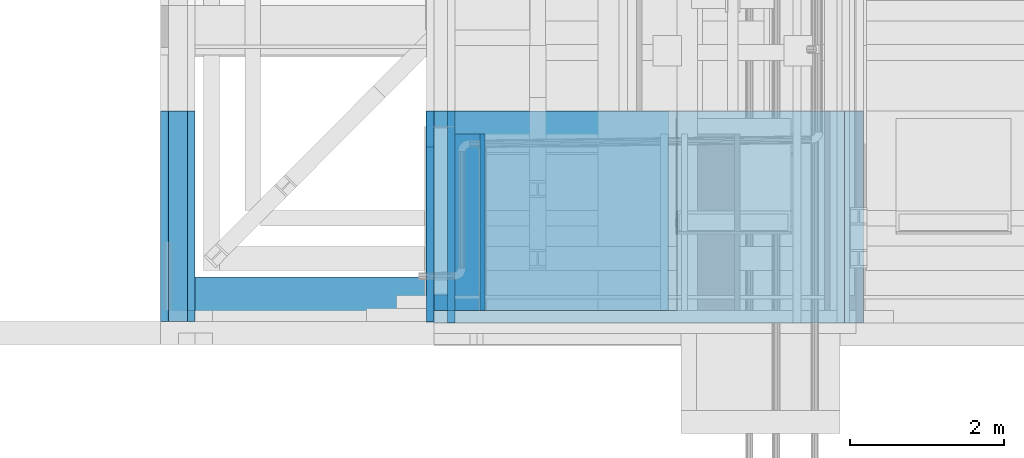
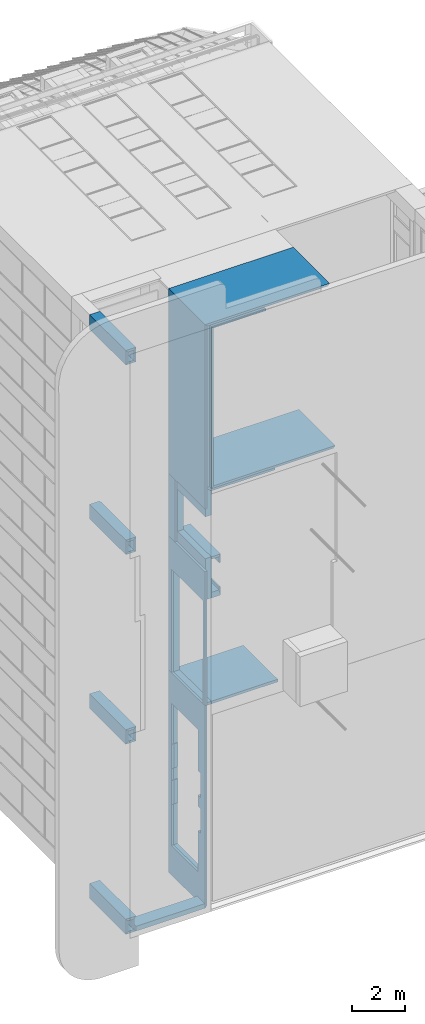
# One storey, part 8 of 583: 33 walls, 18 openings.
"""IFC2X3 building model written with IfcOpenShell, lengths in metres."""

from ifc_helpers import new_model, entity, si_unit, converted_unit, derived_unit, money_unit, direction, frame, frame_2d, origin_with_axes, place, context, subcontext, project, spatial, polyline, rectangle, outline, extrude, material, type_object, element, save


model = new_model("IFC2X3")

# Units and contexts
model_context = context("Model", 3, precision=1e-05, world=origin_with_axes(), true_north=direction((0.0, 1.0)))
body_context = subcontext(model_context, "Body", "Model", "MODEL_VIEW", scale=1.0)
ifc_project = project(units=[si_unit("LENGTHUNIT", "METRE"), si_unit("AREAUNIT", "SQUARE_METRE"), si_unit("VOLUMEUNIT", "CUBIC_METRE"), si_unit("ABSORBEDDOSEUNIT", "GRAY"), si_unit("AMOUNTOFSUBSTANCEUNIT", "MOLE"), si_unit("DOSEEQUIVALENTUNIT", "SIEVERT"), si_unit("ELECTRICCAPACITANCEUNIT", "FARAD"), si_unit("ELECTRICCHARGEUNIT", "COULOMB"), si_unit("ELECTRICCONDUCTANCEUNIT", "SIEMENS"), si_unit("ELECTRICCURRENTUNIT", "AMPERE"), si_unit("ELECTRICRESISTANCEUNIT", "OHM"), si_unit("ELECTRICVOLTAGEUNIT", "VOLT"), si_unit("ENERGYUNIT", "JOULE"), si_unit("FORCEUNIT", "NEWTON"), si_unit("FREQUENCYUNIT", "HERTZ"), si_unit("ILLUMINANCEUNIT", "LUX"), si_unit("INDUCTANCEUNIT", "HENRY"), si_unit("LUMINOUSFLUXUNIT", "LUMEN"), si_unit("LUMINOUSINTENSITYUNIT", "CANDELA"), si_unit("MAGNETICFLUXDENSITYUNIT", "TESLA"), si_unit("MAGNETICFLUXUNIT", "WEBER"), si_unit("MASSUNIT", "GRAM"), converted_unit("PLANEANGLEUNIT", "degree", entity("IfcReal", 0.0174532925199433), si_unit("PLANEANGLEUNIT", "RADIAN"), dimensions=[0, 0, 0, 0, 0, 0, 0]), si_unit("POWERUNIT", "WATT"), si_unit("PRESSUREUNIT", "PASCAL"), si_unit("RADIOACTIVITYUNIT", "BECQUEREL"), si_unit("SOLIDANGLEUNIT", "STERADIAN"), si_unit("THERMODYNAMICTEMPERATUREUNIT", "KELVIN"), si_unit("TIMEUNIT", "SECOND"), derived_unit("ACCELERATIONUNIT", [(si_unit("LENGTHUNIT", "METRE"), 1), (si_unit("TIMEUNIT", "SECOND"), -2)]), derived_unit("ANGULARVELOCITYUNIT", [(converted_unit("PLANEANGLEUNIT", "degree", entity("IfcReal", 0.0174532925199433), si_unit("PLANEANGLEUNIT", "RADIAN"), dimensions=[0, 0, 0, 0, 0, 0, 0]), 1), (si_unit("TIMEUNIT", "SECOND"), -1)]), derived_unit("CURVATUREUNIT", [(converted_unit("PLANEANGLEUNIT", "degree", entity("IfcReal", 0.0174532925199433), si_unit("PLANEANGLEUNIT", "RADIAN"), dimensions=[0, 0, 0, 0, 0, 0, 0]), 1), (si_unit("LENGTHUNIT", "METRE"), -1)]), derived_unit("DYNAMICVISCOSITYUNIT", [(si_unit("PRESSUREUNIT", "PASCAL"), 1), (si_unit("TIMEUNIT", "SECOND"), 1)]), derived_unit("HEATFLUXDENSITYUNIT", [(si_unit("POWERUNIT", "WATT"), 1), (si_unit("LENGTHUNIT", "METRE"), -2)]), derived_unit("HEATINGVALUEUNIT", [(si_unit("ENERGYUNIT", "JOULE"), 1), (si_unit("MASSUNIT", "GRAM"), -1)]), derived_unit("INTEGERCOUNTRATEUNIT", [(si_unit("TIMEUNIT", "SECOND"), -1)]), derived_unit("IONCONCENTRATIONUNIT", [(si_unit("MASSUNIT", "GRAM"), 1), (si_unit("VOLUMEUNIT", "CUBIC_METRE"), -1)]), derived_unit("ISOTHERMALMOISTURECAPACITYUNIT", [(si_unit("VOLUMEUNIT", "CUBIC_METRE"), 1), (si_unit("MASSUNIT", "GRAM"), -1)]), derived_unit("KINEMATICVISCOSITYUNIT", [(si_unit("AREAUNIT", "SQUARE_METRE"), 1), (si_unit("TIMEUNIT", "SECOND"), -1)]), derived_unit("LINEARFORCEUNIT", [(si_unit("FORCEUNIT", "NEWTON"), 1), (si_unit("LENGTHUNIT", "METRE"), -1)]), derived_unit("LINEARMOMENTUNIT", [(si_unit("FORCEUNIT", "NEWTON"), 1), (si_unit("LENGTHUNIT", "METRE"), -1)]), derived_unit("LINEARSTIFFNESSUNIT", [(si_unit("FORCEUNIT", "NEWTON"), 1), (si_unit("LENGTHUNIT", "METRE"), -1)]), derived_unit("LINEARVELOCITYUNIT", [(si_unit("LENGTHUNIT", "METRE"), 1), (si_unit("TIMEUNIT", "SECOND"), -1)]), derived_unit("LUMINOUSINTENSITYDISTRIBUTIONUNIT", [(si_unit("LUMINOUSINTENSITYUNIT", "CANDELA"), 1), (si_unit("LUMINOUSFLUXUNIT", "LUMEN"), -1)]), derived_unit("MASSDENSITYUNIT", [(si_unit("MASSUNIT", "GRAM"), 1), (si_unit("VOLUMEUNIT", "CUBIC_METRE"), -1)]), derived_unit("MASSFLOWRATEUNIT", [(si_unit("MASSUNIT", "GRAM"), 1), (si_unit("TIMEUNIT", "SECOND"), -1)]), derived_unit("MASSPERLENGTHUNIT", [(si_unit("MASSUNIT", "GRAM"), 1), (si_unit("LENGTHUNIT", "METRE"), -1)]), derived_unit("MODULUSOFELASTICITYUNIT", [(si_unit("FORCEUNIT", "NEWTON"), 1), (si_unit("AREAUNIT", "SQUARE_METRE"), -1)]), derived_unit("MODULUSOFLINEARSUBGRADEREACTIONUNIT", [(si_unit("FORCEUNIT", "NEWTON"), 1), (si_unit("LENGTHUNIT", "METRE"), -2)]), derived_unit("MODULUSOFROTATIONALSUBGRADEREACTIONUNIT", [(si_unit("FORCEUNIT", "NEWTON"), 1), (si_unit("LENGTHUNIT", "METRE"), 1)]), derived_unit("MODULUSOFSUBGRADEREACTIONUNIT", [(si_unit("FORCEUNIT", "NEWTON"), 1), (si_unit("VOLUMEUNIT", "CUBIC_METRE"), -1)]), derived_unit("MOISTUREDIFFUSIVITYUNIT", [(si_unit("VOLUMEUNIT", "CUBIC_METRE"), 1), (si_unit("TIMEUNIT", "SECOND"), -1)]), derived_unit("MOLECULARWEIGHTUNIT", [(si_unit("MASSUNIT", "GRAM"), 1), (si_unit("AMOUNTOFSUBSTANCEUNIT", "MOLE"), -1)]), derived_unit("PLANARFORCEUNIT", [(si_unit("FORCEUNIT", "NEWTON"), 1), (si_unit("LENGTHUNIT", "METRE"), -2)]), derived_unit("ROTATIONALFREQUENCYUNIT", [(si_unit("TIMEUNIT", "SECOND"), -1)]), derived_unit("ROTATIONALMASSUNIT", [(si_unit("MASSUNIT", "GRAM"), 1), (si_unit("LENGTHUNIT", "METRE"), 2)]), derived_unit("ROTATIONALSTIFFNESSUNIT", [(si_unit("FORCEUNIT", "NEWTON"), 1), (si_unit("LENGTHUNIT", "METRE"), 1), (converted_unit("PLANEANGLEUNIT", "degree", entity("IfcReal", 0.0174532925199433), si_unit("PLANEANGLEUNIT", "RADIAN"), dimensions=[0, 0, 0, 0, 0, 0, 0]), -1)]), derived_unit("SECTIONAREAINTEGRALUNIT", [(si_unit("LENGTHUNIT", "METRE"), 5)]), derived_unit("SECTIONMODULUSUNIT", [(si_unit("LENGTHUNIT", "METRE"), 3)]), derived_unit("SHEARMODULUSUNIT", [(si_unit("FORCEUNIT", "NEWTON"), 1), (si_unit("AREAUNIT", "SQUARE_METRE"), -1)]), derived_unit("SOUNDPOWERUNIT", [(si_unit("ENERGYUNIT", "JOULE"), 1), (si_unit("TIMEUNIT", "SECOND"), -1)]), derived_unit("SPECIFICHEATCAPACITYUNIT", [(si_unit("FORCEUNIT", "NEWTON"), 1), (si_unit("MASSUNIT", "GRAM"), -1), (si_unit("THERMODYNAMICTEMPERATUREUNIT", "KELVIN"), -1)]), derived_unit("TEMPERATUREGRADIENTUNIT", [(si_unit("THERMODYNAMICTEMPERATUREUNIT", "KELVIN"), 1), (si_unit("LENGTHUNIT", "METRE"), -1)]), derived_unit("THERMALADMITTANCEUNIT", [(si_unit("POWERUNIT", "WATT"), 1), (si_unit("AREAUNIT", "SQUARE_METRE"), -1), (si_unit("THERMODYNAMICTEMPERATUREUNIT", "KELVIN"), -1)]), derived_unit("THERMALCONDUCTANCEUNIT", [(si_unit("POWERUNIT", "WATT"), 1), (si_unit("LENGTHUNIT", "METRE"), -1), (si_unit("THERMODYNAMICTEMPERATUREUNIT", "KELVIN"), -1)]), derived_unit("THERMALEXPANSIONCOEFFICIENTUNIT", [(si_unit("THERMODYNAMICTEMPERATUREUNIT", "KELVIN"), -1)]), derived_unit("THERMALRESISTANCEUNIT", [(si_unit("AREAUNIT", "SQUARE_METRE"), 1), (si_unit("POWERUNIT", "WATT"), -1)]), derived_unit("THERMALTRANSMITTANCEUNIT", [(si_unit("POWERUNIT", "WATT"), 1), (si_unit("AREAUNIT", "SQUARE_METRE"), -1), (si_unit("THERMODYNAMICTEMPERATUREUNIT", "KELVIN"), -1)]), derived_unit("TORQUEUNIT", [(si_unit("FORCEUNIT", "NEWTON"), 1), (si_unit("LENGTHUNIT", "METRE"), 1)]), derived_unit("VAPORPERMEABILITYUNIT", [(si_unit("MASSUNIT", "GRAM"), 1), (si_unit("TIMEUNIT", "SECOND"), -1)]), derived_unit("VOLUMETRICFLOWRATEUNIT", [(si_unit("VOLUMEUNIT", "CUBIC_METRE"), 1), (si_unit("TIMEUNIT", "SECOND"), -1)]), derived_unit("WARPINGCONSTANTUNIT", [(si_unit("LENGTHUNIT", "METRE"), 6)]), derived_unit("WARPINGMOMENTUNIT", [(si_unit("FORCEUNIT", "NEWTON"), 1), (si_unit("LENGTHUNIT", "METRE"), 2)]), money_unit("GBP")], contexts=[model_context])

# Site, building, storey
site_placement = place(None, origin_with_axes())
site = spatial("IfcSite", under=ifc_project, at=site_placement, Name="Site", CompositionType="ELEMENT")
building_placement = place(site_placement, origin_with_axes())
building = spatial("IfcBuilding", under=site, at=building_placement, Name="Building01", CompositionType="ELEMENT")
storey_placement = place(building_placement, frame((0.0, 0.0, 20.78), z_axis=(0.0, 0.0, 1.0), x_axis=(1.0, 0.0, 0.0)))
storey = spatial("IfcBuildingStorey", under=building, at=storey_placement, Name="RL", CompositionType="ELEMENT", Elevation=20.78)

# Walls
ifc_material_1 = material(Name="A_BSUK_WallsExternal_Brick")
wall_type_1 = type_object("IfcWallType", Name="A-Walls-ExternalBrick", PredefinedType="NOTDEFINED")
wall_1_placement = place(storey_placement, frame((0.0, -0.145, -20.779983), z_axis=(0.0, 1.0, 0.0), x_axis=(0.0, 0.0, 1.0)))
element("IfcWall", 1, at=wall_1_placement, inside=storey, type_object=wall_type_1, material=ifc_material_1, Name="A-Walls-ExternalBrick", ObjectType="A-Walls-ExternalBrick", context=body_context, shape_type="SweptSolid", body=[
    extrude(outline(polyline([(0.599983, 0.1), (0.1, 0.1), (0.0, 0.0), (0.699983, 0.0), (0.599983, 0.1)])), origin_with_axes(), (0.0, 0.0, 1.0), 2.745),
])
wall_2_placement = place(storey_placement, frame((0.0, -0.145, -20.08), z_axis=(0.0, 1.0, 0.0), x_axis=(1.0, 0.0, 0.0)))
element("IfcWall", 2, at=wall_2_placement, inside=storey, type_object=wall_type_1, material=ifc_material_1, Name="A-Walls-ExternalBrick", ObjectType="A-Walls-ExternalBrick", context=body_context, shape_type="SweptSolid", body=[
    extrude(outline(polyline([(0.349667, 0.1), (0.1, 0.1), (0.0, 0.0), (0.449667, 0.0), (0.349667, 0.1)])), origin_with_axes(), (0.0, 0.0, 1.0), 2.745),
])
wall_3_placement = place(storey_placement, frame((0.449667, 0.0, -20.08), z_axis=(0.0, 1.0, 0.0), x_axis=(0.0, 0.0, -1.0)))
element("IfcWall", 3, at=wall_3_placement, inside=storey, type_object=wall_type_1, material=ifc_material_1, Name="A-Walls-ExternalBrick", ObjectType="A-Walls-ExternalBrick", context=body_context, shape_type="SweptSolid", body=[
    extrude(outline(polyline([(0.599983, 0.1), (0.1, 0.1), (0.0, 0.0), (0.699983, 0.0), (0.599983, 0.1)])), origin_with_axes(), (0.0, 0.0, 1.0), 2.6),
])
wall_4_placement = place(storey_placement, frame((0.449667, -0.145, -20.779983), z_axis=(0.0, 1.0, 0.0), x_axis=(-1.0, 0.0, 0.0)))
element("IfcWall", 4, at=wall_4_placement, inside=storey, type_object=wall_type_1, material=ifc_material_1, Name="A-Walls-ExternalBrick", ObjectType="A-Walls-ExternalBrick", context=body_context, shape_type="SweptSolid", body=[
    extrude(outline(polyline([(0.349667, 0.1), (0.1, 0.1), (0.0, 0.0), (0.449667, 0.0), (0.349667, 0.1)])), origin_with_axes(), (0.0, 0.0, 1.0), 2.745),
])
wall_5_placement = place(storey_placement, frame((-0.000329, -0.145, -11.99), z_axis=(0.0, 1.0, 0.0), x_axis=(0.0, 0.0, 1.0)))
element("IfcWall", 5, at=wall_5_placement, inside=storey, type_object=wall_type_1, material=ifc_material_1, Name="A-Walls-ExternalBrick", ObjectType="A-Walls-ExternalBrick", context=body_context, shape_type="SweptSolid", body=[
    extrude(outline(polyline([(0.57, 0.1), (0.1, 0.1), (0.0, 0.0), (0.67, 0.0), (0.57, 0.1)])), origin_with_axes(), (0.0, 0.0, 1.0), 2.745),
])
wall_6_placement = place(storey_placement, frame((-0.000329, -0.145, -11.32), z_axis=(0.0, 1.0, 0.0), x_axis=(1.0, 0.0, 0.0)))
element("IfcWall", 6, at=wall_6_placement, inside=storey, type_object=wall_type_1, material=ifc_material_1, Name="A-Walls-ExternalBrick", ObjectType="A-Walls-ExternalBrick", context=body_context, shape_type="SweptSolid", body=[
    extrude(outline(polyline([(0.349667, 0.1), (0.1, 0.1), (0.0, 0.0), (0.449667, 0.0), (0.349667, 0.1)])), origin_with_axes(), (0.0, 0.0, 1.0), 2.745),
])
wall_7_placement = place(storey_placement, frame((0.449338, -0.145, -11.32), z_axis=(0.0, 1.0, 0.0), x_axis=(0.0, 0.0, -1.0)))
element("IfcWall", 7, at=wall_7_placement, inside=storey, type_object=wall_type_1, material=ifc_material_1, Name="A-Walls-ExternalBrick", ObjectType="A-Walls-ExternalBrick", context=body_context, shape_type="SweptSolid", body=[
    extrude(outline(polyline([(0.57, 0.1), (0.1, 0.1), (0.0, 0.0), (0.67, 0.0), (0.57, 0.1)])), origin_with_axes(), (0.0, 0.0, 1.0), 2.745),
])
for number, where, z_axis, x_axis, name in (
    (8, (0.449338, -0.145, -11.99), (0.0, 1.0, 0.0), (-1.0, 0.0, 0.0), "A-Walls-ExternalBrick"),
    (9, (0.449009, -0.145, -3.23), (0.0, 1.0, 0.0), (-1.0, 0.0, 0.0), "A-Walls-ExternalBrick"),
):
    element("IfcWall", number, at=place(storey_placement, frame(where, z_axis=z_axis, x_axis=x_axis)), inside=storey, type_object=wall_type_1, material=ifc_material_1, Name=name, ObjectType="A-Walls-ExternalBrick", context=body_context, shape_type="SweptSolid", body=[
        extrude(outline(polyline([(0.349667, 0.1), (0.1, 0.1), (0.0, 0.0), (0.449667, 0.0), (0.349667, 0.1)])), origin_with_axes(), (0.0, 0.0, 1.0), 2.745),
    ])
wall_8_placement = place(storey_placement, frame((-0.000659, -0.145, -3.23), z_axis=(0.0, 1.0, 0.0), x_axis=(0.0, 0.0, 1.0)))
element("IfcWall", 10, at=wall_8_placement, inside=storey, type_object=wall_type_1, material=ifc_material_1, Name="A-Walls-ExternalBrick", ObjectType="A-Walls-ExternalBrick", context=body_context, shape_type="SweptSolid", body=[
    extrude(outline(polyline([(0.57, 0.1), (0.1, 0.1), (0.0, 0.0), (0.67, 0.0), (0.57, 0.1)])), origin_with_axes(), (0.0, 0.0, 1.0), 2.745),
])
wall_9_placement = place(storey_placement, frame((-0.000659, -0.145, -2.56), z_axis=(0.0, 1.0, 0.0), x_axis=(1.0, 0.0, 0.0)))
element("IfcWall", 11, at=wall_9_placement, inside=storey, type_object=wall_type_1, material=ifc_material_1, Name="A-Walls-ExternalBrick", ObjectType="A-Walls-ExternalBrick", context=body_context, shape_type="SweptSolid", body=[
    extrude(outline(polyline([(0.349667, 0.1), (0.1, 0.1), (0.0, 0.0), (0.449667, 0.0), (0.349667, 0.1)])), origin_with_axes(), (0.0, 0.0, 1.0), 2.745),
])
wall_10_placement = place(storey_placement, frame((0.449009, -0.145, -2.56), z_axis=(0.0, 1.0, 0.0), x_axis=(0.0, 0.0, -1.0)))
element("IfcWall", 12, at=wall_10_placement, inside=storey, type_object=wall_type_1, material=ifc_material_1, Name="A-Walls-ExternalBrick", ObjectType="A-Walls-ExternalBrick", context=body_context, shape_type="SweptSolid", body=[
    extrude(outline(polyline([(0.57, 0.1), (0.1, 0.1), (0.0, 0.0), (0.67, 0.0), (0.57, 0.1)])), origin_with_axes(), (0.0, 0.0, 1.0), 2.745),
])
wall_11_placement = place(storey_placement, frame((-0.000988, -0.145, 5.53), z_axis=(0.0, 1.0, 0.0), x_axis=(0.0, 0.0, 1.0)))
element("IfcWall", 13, at=wall_11_placement, inside=storey, type_object=wall_type_1, material=ifc_material_1, Name="A-Walls-ExternalBrick", ObjectType="A-Walls-ExternalBrick", context=body_context, shape_type="SweptSolid", body=[
    extrude(outline(polyline([(0.571155, 0.1), (0.1, 0.1), (0.0, 0.0), (0.671155, 0.0), (0.571155, 0.1)])), origin_with_axes(), (0.0, 0.0, 1.0), 2.745),
])
wall_12_placement = place(storey_placement, frame((-0.000988, -0.145, 6.201155), z_axis=(0.0, 1.0, 0.0), x_axis=(1.0, 0.0, 0.0)))
element("IfcWall", 14, at=wall_12_placement, inside=storey, type_object=wall_type_1, material=ifc_material_1, Name="A-Walls-ExternalBrick", ObjectType="A-Walls-ExternalBrick", context=body_context, shape_type="SweptSolid", body=[
    extrude(outline(polyline([(0.349668, 0.1), (0.1, 0.1), (0.0, 0.0), (0.449668, 0.0), (0.349668, 0.1)])), origin_with_axes(), (0.0, 0.0, 1.0), 2.745),
])
wall_13_placement = place(storey_placement, frame((0.44868, -0.145, 6.201155), z_axis=(0.0, 1.0, 0.0), x_axis=(0.0, 0.0, -1.0)))
element("IfcWall", 15, at=wall_13_placement, inside=storey, type_object=wall_type_1, material=ifc_material_1, Name="A-Walls-ExternalBrick", ObjectType="A-Walls-ExternalBrick", context=body_context, shape_type="SweptSolid", body=[
    extrude(outline(polyline([(0.571155, 0.1), (0.1, 0.1), (0.0, 0.0), (0.671155, 0.0), (0.571155, 0.1)])), origin_with_axes(), (0.0, 0.0, 1.0), 2.745),
])
wall_14_placement = place(storey_placement, frame((0.44868, -0.145, 5.53), z_axis=(0.0, 1.0, 0.0), x_axis=(-1.0, 0.0, 0.0)))
element("IfcWall", 16, at=wall_14_placement, inside=storey, type_object=wall_type_1, material=ifc_material_1, Name="A-Walls-ExternalBrick", ObjectType="A-Walls-ExternalBrick", context=body_context, shape_type="SweptSolid", body=[
    extrude(outline(polyline([(0.349668, 0.1), (0.1, 0.1), (0.0, 0.0), (0.449668, 0.0), (0.349668, 0.1)])), origin_with_axes(), (0.0, 0.0, 1.0), 2.745),
])
wall_15_placement = place(storey_placement, frame((3.458503, -0.16, 6.201285), z_axis=(0.0, 1.0, 0.0), x_axis=(1.0, 0.0, 0.0)))
element("IfcWall", 17, at=wall_15_placement, inside=storey, type_object=wall_type_1, material=ifc_material_1, Name="A-Walls-ExternalBrick", ObjectType="A-Walls-ExternalBrick", context=body_context, shape_type="SweptSolid", body=[
    extrude(outline(polyline([(5.351028, 0.1), (0.100004, 0.1), (0.0, 0.0), (5.451028, 0.0), (5.351028, 0.1)])), origin_with_axes(), (0.0, 0.0, 1.0), 2.76),
])

# Wall, openings
wall_16_placement = place(storey_placement, frame((3.459516, -0.145, -20.77987), z_axis=(0.0, 1.0, 0.0), x_axis=(-3.756e-05, 0.0, 1.0)))
wall_16 = element("IfcWall", 18, at=wall_16_placement, inside=storey, type_object=wall_type_1, material=ifc_material_1, Name="A-Walls-ExternalBrick", ObjectType="A-Walls-ExternalBrick", context=body_context, shape_type="SweptSolid", body=[
    extrude(outline(polyline([(9.353966, 0.1), (0.1, 0.1), (0.0, 0.0), (9.353966, 0.0), (9.353966, 0.1)])), origin_with_axes(), (0.0, 0.0, 1.0), 2.745),
])
opening_1_placement = place(wall_16_placement, frame((3.257551, 0.0, 0.343), z_axis=(0.0, 0.0, 1.0), x_axis=(1.0, 0.0, 0.0)))
element("IfcOpeningElement", 19, at=opening_1_placement, cuts=wall_16, Name="Opening", ObjectType="Opening", context=body_context, shape_type="SweptSolid", body=[
    extrude(rectangle(XDim=1.134, YDim=2.172, at=frame_2d((-0.567, 1.086), x_axis=(-1.0, 0.0))), frame((0.0, 0.0, 0.0), z_axis=(0.0, 1.0, 0.0), x_axis=(-1.0, 0.0, 0.0)), (3.756e-05, 0.0, 1.0), 0.1),
])
opening_2_placement = place(wall_16_placement, frame((4.911551, 0.0, 0.343), z_axis=(0.0, 0.0, 1.0), x_axis=(1.0, 0.0, 0.0)))
element("IfcOpeningElement", 20, at=opening_2_placement, cuts=wall_16, Name="Opening", ObjectType="Opening", context=body_context, shape_type="SweptSolid", body=[
    extrude(rectangle(XDim=2.172, YDim=1.134, at=frame_2d((-0.567, 1.086), x_axis=(0.0, -1.0))), frame((0.0, 0.0, 0.0), z_axis=(0.0, 1.0, 0.0), x_axis=(-1.0, 0.0, 0.0)), (3.756e-05, 0.0, 1.0), 0.1),
])
opening_3_placement = place(wall_16_placement, frame((1.361551, 0.0, 0.543), z_axis=(0.0, 0.0, 1.0), x_axis=(1.0, 0.0, 0.0)))
element("IfcOpeningElement", 21, at=opening_3_placement, cuts=wall_16, Name="Opening", ObjectType="Opening", context=body_context, shape_type="SweptSolid", body=[
    extrude(rectangle(XDim=2.0, YDim=1.9, at=frame_2d((-0.95, 1.0), x_axis=(0.0, -1.0))), frame((0.0, 0.0, 0.0), z_axis=(0.0, 1.0, 0.0), x_axis=(-1.0, 0.0, 0.0)), (3.756e-05, 0.0, 1.0), 0.1),
])
opening_4_placement = place(wall_16_placement, frame((4.376551, 0.0, 0.543), z_axis=(0.0, 0.0, 1.0), x_axis=(1.0, 0.0, 0.0)))
element("IfcOpeningElement", 22, at=opening_4_placement, cuts=wall_16, Name="Opening", ObjectType="Opening", context=body_context, shape_type="SweptSolid", body=[
    extrude(rectangle(XDim=2.0, YDim=0.55, at=frame_2d((-0.275, 1.0), x_axis=(0.0, -1.0))), frame((0.0, 0.0, 0.0), z_axis=(0.0, 1.0, 0.0), x_axis=(-1.0, 0.0, 0.0)), (3.756e-05, 0.0, 1.0), 0.1),
])
opening_5_placement = place(wall_16_placement, frame((6.041551, 0.0, 0.543), z_axis=(0.0, 0.0, 1.0), x_axis=(1.0, 0.0, 0.0)))
element("IfcOpeningElement", 23, at=opening_5_placement, cuts=wall_16, Name="Opening", ObjectType="Opening", context=body_context, shape_type="SweptSolid", body=[
    extrude(rectangle(XDim=2.0, YDim=1.9, at=frame_2d((-0.95, 1.0), x_axis=(0.0, -1.0))), frame((0.0, 0.0, 0.0), z_axis=(0.0, 1.0, 0.0), x_axis=(-1.0, 0.0, 0.0)), (3.756e-05, 0.0, 1.0), 0.1),
])

# Walls
wall_17_placement = place(storey_placement, frame((3.459516, -0.145, -20.77987), z_axis=(0.0, 1.0, 0.0), x_axis=(-1.0, 0.0, 0.0)))
element("IfcWall", 24, at=wall_17_placement, inside=storey, type_object=wall_type_1, material=ifc_material_1, Name="A-Walls-ExternalBrick", ObjectType="A-Walls-ExternalBrick", context=body_context, shape_type="SweptSolid", body=[
    extrude(outline(polyline([(3.009849, 0.219), (8e-06, 0.219), (0.0, 0.0), (3.009849, 0.0), (3.009849, 0.219)])), origin_with_axes(), (0.0, 0.0, 1.0), 0.58),
])
wall_18_placement = place(storey_placement, frame((3.458824, -0.145, -2.338725), z_axis=(0.0, 1.0, 0.0), x_axis=(-3.756e-05, 0.0, 1.0)))
element("IfcWall", 25, at=wall_18_placement, inside=storey, type_object=wall_type_1, material=ifc_material_1, Name="A-Walls-ExternalBrick", ObjectType="A-Walls-ExternalBrick", context=body_context, shape_type="SweptSolid", body=[
    extrude(outline(polyline([(8.440006, 0.1), (0.0, 0.1), (0.0, 0.0), (8.54001, 0.0), (8.440006, 0.1)])), origin_with_axes(), (0.0, 0.0, 1.0), 2.745),
])

# Wall, openings
wall_19_placement = place(storey_placement, frame((3.458823, -0.145, -11.425908), z_axis=(0.0, 1.0, 0.0), x_axis=(-3.756e-05, 0.0, 1.0)))
wall_19 = element("IfcWall", 26, at=wall_19_placement, inside=storey, type_object=wall_type_1, material=ifc_material_1, Name="A-Walls-ExternalBrick", ObjectType="A-Walls-ExternalBrick", context=body_context, shape_type="SweptSolid", body=[
    extrude(rectangle(XDim=6.191074, YDim=0.1, at=frame_2d((3.095537, 0.05), x_axis=(-1.0, 0.0))), origin_with_axes(), (0.0, 0.0, 1.0), 2.745),
])
opening_6_placement = place(wall_19_placement, frame((1.590008, 0.0, 0.145), z_axis=(0.0, 0.0, 1.0), x_axis=(1.0, 0.0, 0.0)))
element("IfcOpeningElement", 27, at=opening_6_placement, cuts=wall_19, Name="Opening", ObjectType="Opening", context=body_context, shape_type="SweptSolid", body=[
    extrude(rectangle(XDim=2.4, YDim=1.59, at=frame_2d((-0.795, 1.2), x_axis=(0.0, -1.0))), frame((0.0, 0.0, 0.0), z_axis=(0.0, 1.0, 0.0), x_axis=(-1.0, 0.0, 0.0)), (3.756e-05, 0.0, 1.0), 0.1),
])
opening_7_placement = place(wall_19_placement, frame((8e-06, 0.0, 0.145), z_axis=(0.0, 0.0, 1.0), x_axis=(1.0, 0.0, 0.0)))
element("IfcOpeningElement", 28, at=opening_7_placement, cuts=wall_19, Name="Opening", ObjectType="Opening", context=body_context, shape_type="SweptSolid", body=[
    extrude(rectangle(XDim=2.4, YDim=1.59, at=frame_2d((-0.795, 1.2), x_axis=(0.0, -1.0))), frame((0.0, 0.0, 0.0), z_axis=(0.0, 1.0, 0.0), x_axis=(-1.0, 0.0, 0.0)), (3.756e-05, 0.0, 1.0), 0.1),
])
opening_8_placement = place(wall_19_placement, frame((3.180008, 0.0, 0.145), z_axis=(0.0, 0.0, 1.0), x_axis=(1.0, 0.0, 0.0)))
element("IfcOpeningElement", 29, at=opening_8_placement, cuts=wall_19, Name="Opening", ObjectType="Opening", context=body_context, shape_type="SweptSolid", body=[
    extrude(rectangle(XDim=2.4, YDim=1.59, at=frame_2d((-0.795, 1.2), x_axis=(0.0, -1.0))), frame((0.0, 0.0, 0.0), z_axis=(0.0, 1.0, 0.0), x_axis=(-1.0, 0.0, 0.0)), (3.756e-05, 0.0, 1.0), 0.1),
])

# Walls
wall_20_placement = place(storey_placement, frame((3.458932, 2.127, -5.234834), z_axis=(0.0, 1.0, 0.0), x_axis=(-3.756e-05, 0.0, 1.0)))
element("IfcWall", 30, at=wall_20_placement, inside=storey, type_object=wall_type_1, material=ifc_material_1, Name="A-Walls-ExternalBrick", ObjectType="A-Walls-ExternalBrick", context=body_context, shape_type="SweptSolid", body=[
    extrude(rectangle(XDim=2.896109, YDim=0.1, at=frame_2d((1.448055, 0.05), x_axis=(-1.0, 0.0))), origin_with_axes(), (0.0, 0.0, 1.0), 0.473),
])
ifc_material_2 = material(Name="A_BSUK_WallsExternal_Block")
wall_type_2 = type_object("IfcWallType", Name="A-Walls-ExternalBlock", PredefinedType="NOTDEFINED")
wall_21_placement = place(storey_placement, frame((6.112111, -0.16, 5.915149), z_axis=(0.0, 1.0, 0.0), x_axis=(-1.0, 0.0, -3.756e-05)))
element("IfcWall", 31, at=wall_21_placement, inside=storey, type_object=wall_type_2, material=ifc_material_2, Name="A-Walls-ExternalBlock", ObjectType="A-Walls-ExternalBlock", context=body_context, shape_type="SweptSolid", body=[
    extrude(outline(polyline([(2.378533, 0.1), (0.0, 0.1), (0.0, 0.0), (2.278533, 0.0), (2.378533, 0.1)])), origin_with_axes(), (0.0, 0.0, 1.0), 2.76),
])
wall_22_placement = place(storey_placement, frame((3.833578, -0.16, 5.915064), z_axis=(0.0, 1.0, 0.0), x_axis=(3.756e-05, 0.0, -1.0)))
element("IfcWall", 32, at=wall_22_placement, inside=storey, type_object=wall_type_2, material=ifc_material_2, Name="A-Walls-ExternalBlock", ObjectType="A-Walls-ExternalBlock", context=body_context, shape_type="SweptSolid", body=[
    extrude(outline(polyline([(7.392288, 0.1), (-0.1, 0.1), (0.0, 0.0), (7.292288, 0.0), (7.392288, 0.1)])), origin_with_axes(), (0.0, 0.0, 1.0), 2.76),
])
wall_23_placement = place(storey_placement, frame((3.833852, -0.16, -1.377224), z_axis=(0.0, 1.0, 0.0), x_axis=(1.0, 0.0, 3.756e-05)))
element("IfcWall", 33, at=wall_23_placement, inside=storey, type_object=wall_type_2, material=ifc_material_2, Name="A-Walls-ExternalBlock", ObjectType="A-Walls-ExternalBlock", context=body_context, shape_type="SweptSolid", body=[
    extrude(outline(polyline([(5.219002, 0.1), (-0.1, 0.1), (0.0, 0.0), (5.319002, 0.0), (5.219002, 0.1)])), origin_with_axes(), (0.0, 0.0, 1.0), 2.76),
])

# Wall, openings
wall_24_placement = place(storey_placement, frame((3.733332, 0.198, -11.814901), z_axis=(0.0, 1.0, 0.0), x_axis=(0.0, 0.0, -1.0)))
wall_24 = element("IfcWall", 34, at=wall_24_placement, inside=storey, type_object=wall_type_2, material=ifc_material_2, Name="A-Walls-ExternalBlock", ObjectType="A-Walls-ExternalBlock", context=body_context, shape_type="SweptSolid", body=[
    extrude(outline(polyline([(8.864749, 0.174), (-0.264901, 0.174), (0.0, 0.0), (8.684742, 0.0), (8.864749, 0.174)])), origin_with_axes(), (0.0, 0.0, 1.0), 2.402),
])
opening_9_placement = place(wall_24_placement, frame((4.573418, 0.174, 0.0), z_axis=(0.0, 0.0, 1.0), x_axis=(1.0, 0.0, 0.0)))
element("IfcOpeningElement", 35, at=opening_9_placement, cuts=wall_24, Name="Opening", ObjectType="Opening", context=body_context, shape_type="SweptSolid", body=[
    extrude(rectangle(XDim=1.134, YDim=2.172, at=frame_2d((0.567, 1.086), x_axis=(-1.0, 0.0))), frame((0.0, 0.0, 0.0), z_axis=(0.0, -1.0, 0.0), x_axis=(1.0, 0.0, 0.0)), (0.0, 0.0, 1.0), 0.174),
])
opening_10_placement = place(wall_24_placement, frame((2.919418, 0.174, 0.0), z_axis=(0.0, 0.0, 1.0), x_axis=(1.0, 0.0, 0.0)))
element("IfcOpeningElement", 36, at=opening_10_placement, cuts=wall_24, Name="Opening", ObjectType="Opening", context=body_context, shape_type="SweptSolid", body=[
    extrude(rectangle(XDim=2.172, YDim=1.134, at=frame_2d((0.567, 1.086), x_axis=(0.0, -1.0))), frame((0.0, 0.0, 0.0), z_axis=(0.0, -1.0, 0.0), x_axis=(1.0, 0.0, 0.0)), (0.0, 0.0, 1.0), 0.174),
])
opening_11_placement = place(wall_24_placement, frame((5.703418, 0.174, 0.2), z_axis=(0.0, 0.0, 1.0), x_axis=(1.0, 0.0, 0.0)))
element("IfcOpeningElement", 37, at=opening_11_placement, cuts=wall_24, Name="Opening", ObjectType="Opening", context=body_context, shape_type="SweptSolid", body=[
    extrude(rectangle(XDim=2.0, YDim=1.9, at=frame_2d((0.95, 1.0), x_axis=(0.0, -1.0))), frame((0.0, 0.0, 0.0), z_axis=(0.0, -1.0, 0.0), x_axis=(1.0, 0.0, 0.0)), (0.0, 0.0, 1.0), 0.174),
])
opening_12_placement = place(wall_24_placement, frame((4.038418, 0.174, 0.2), z_axis=(0.0, 0.0, 1.0), x_axis=(1.0, 0.0, 0.0)))
element("IfcOpeningElement", 38, at=opening_12_placement, cuts=wall_24, Name="Opening", ObjectType="Opening", context=body_context, shape_type="SweptSolid", body=[
    extrude(rectangle(XDim=2.0, YDim=0.55, at=frame_2d((0.275, 1.0), x_axis=(0.0, -1.0))), frame((0.0, 0.0, 0.0), z_axis=(0.0, -1.0, 0.0), x_axis=(1.0, 0.0, 0.0)), (0.0, 0.0, 1.0), 0.174),
])
opening_13_placement = place(wall_24_placement, frame((1.023418, 0.174, 0.2), z_axis=(0.0, 0.0, 1.0), x_axis=(1.0, 0.0, 0.0)))
element("IfcOpeningElement", 39, at=opening_13_placement, cuts=wall_24, Name="Opening", ObjectType="Opening", context=body_context, shape_type="SweptSolid", body=[
    extrude(rectangle(XDim=2.0, YDim=1.9, at=frame_2d((0.95, 1.0), x_axis=(0.0, -1.0))), frame((0.0, 0.0, 0.0), z_axis=(0.0, -1.0, 0.0), x_axis=(1.0, 0.0, 0.0)), (0.0, 0.0, 1.0), 0.174),
])

wall_25_placement = place(storey_placement, frame((3.823962, 0.0, -1.710228), z_axis=(0.0, 1.0, 0.0), x_axis=(0.0, 0.0, -1.0)))
wall_25 = element("IfcWall", 40, at=wall_25_placement, inside=storey, type_object=wall_type_2, material=ifc_material_2, Name="A-Walls-ExternalBlock", ObjectType="A-Walls-ExternalBlock", context=body_context, shape_type="SweptSolid", body=[
    extrude(outline(polyline([(9.839772, 0.265), (-0.233, 0.265), (0.0, 0.0), (9.839772, 0.0), (9.839772, 0.265)])), origin_with_axes(), (0.0, 0.0, 1.0), 2.6),
])
opening_14_placement = place(wall_25_placement, frame((1.109549, 0.0, 0.0), z_axis=(0.0, 0.0, 1.0), x_axis=(1.0, 0.0, 0.0)))
element("IfcOpeningElement", 41, at=opening_14_placement, cuts=wall_25, Name="Opening", ObjectType="Opening", context=body_context, shape_type="SweptSolid", body=[
    extrude(rectangle(XDim=2.1, YDim=1.934, at=frame_2d((-0.967, 1.05), x_axis=(0.0, -1.0))), frame((0.0, 0.0, 0.0), z_axis=(0.0, 1.0, 0.0), x_axis=(-1.0, 0.0, 0.0)), (0.0, 0.0, 1.0), 0.265),
])
opening_15_placement = place(wall_25_placement, frame((6.535672, 0.265, 0.0), z_axis=(0.0, 0.0, 1.0), x_axis=(1.0, 0.0, 0.0)))
element("IfcOpeningElement", 42, at=opening_15_placement, cuts=wall_25, Name="Opening", ObjectType="Opening", context=body_context, shape_type="SweptSolid", body=[
    extrude(rectangle(XDim=2.4, YDim=1.59, at=frame_2d((0.795, 1.2), x_axis=(0.0, -1.0))), frame((0.0, 0.0, 0.0), z_axis=(0.0, -1.0, 0.0), x_axis=(1.0, 0.0, 0.0)), (0.0, 0.0, 1.0), 0.265),
])
opening_16_placement = place(wall_25_placement, frame((8.125672, 0.265, 0.0), z_axis=(0.0, 0.0, 1.0), x_axis=(1.0, 0.0, 0.0)))
element("IfcOpeningElement", 43, at=opening_16_placement, cuts=wall_25, Name="Opening", ObjectType="Opening", context=body_context, shape_type="SweptSolid", body=[
    extrude(rectangle(XDim=2.4, YDim=1.59, at=frame_2d((0.795, 1.2), x_axis=(0.0, -1.0))), frame((0.0, 0.0, 0.0), z_axis=(0.0, -1.0, 0.0), x_axis=(1.0, 0.0, 0.0)), (0.0, 0.0, 1.0), 0.265),
])
opening_17_placement = place(wall_25_placement, frame((4.945672, 0.265, 0.0), z_axis=(0.0, 0.0, 1.0), x_axis=(1.0, 0.0, 0.0)))
element("IfcOpeningElement", 44, at=opening_17_placement, cuts=wall_25, Name="Opening", ObjectType="Opening", context=body_context, shape_type="SweptSolid", body=[
    extrude(rectangle(XDim=2.4, YDim=1.59, at=frame_2d((0.795, 1.2), x_axis=(0.0, -1.0))), frame((0.0, 0.0, 0.0), z_axis=(0.0, -1.0, 0.0), x_axis=(1.0, 0.0, 0.0)), (0.0, 0.0, 1.0), 0.265),
])

# Walls
wall_26_placement = place(storey_placement, frame((3.558962, 0.0, -1.477228), z_axis=(0.0, 1.0, 0.0), x_axis=(1.0, 0.0, 0.0)))
element("IfcWall", 45, at=wall_26_placement, inside=storey, type_object=wall_type_2, material=ifc_material_2, Name="A-Walls-ExternalBlock", ObjectType="A-Walls-ExternalBlock", context=body_context, shape_type="SweptSolid", body=[
    extrude(outline(polyline([(0.265, 0.233), (0.0, 0.0), (3.051976, 0.0), (3.051976, 0.233), (0.265, 0.233)])), origin_with_axes(), (0.0, 0.0, 1.0), 2.6),
])
wall_27_placement = place(storey_placement, frame((3.558962, 0.0, -1.477228), z_axis=(0.0, 1.0, 0.0), x_axis=(0.0, 0.0, 1.0)))
element("IfcWall", 46, at=wall_27_placement, inside=storey, type_object=wall_type_2, material=ifc_material_2, Name="A-Walls-ExternalBlock", ObjectType="A-Walls-ExternalBlock", context=body_context, shape_type="SweptSolid", body=[
    extrude(rectangle(XDim=7.578513, YDim=0.175, at=frame_2d((3.789257, 0.0875), x_axis=(-1.0, 0.0))), origin_with_axes(), (0.0, 0.0, 1.0), 2.6),
])
wall_28_placement = place(storey_placement, frame((6.725761, 0.0, -11.550001), z_axis=(0.0, 1.0, 0.0), x_axis=(-1.0, 0.0, 0.0)))
element("IfcWall", 47, at=wall_28_placement, inside=storey, type_object=wall_type_2, material=ifc_material_2, Name="A-Walls-ExternalBlock", ObjectType="A-Walls-ExternalBlock", context=body_context, shape_type="SweptSolid", body=[
    extrude(rectangle(XDim=2.901799, YDim=0.1241, at=frame_2d((1.4509, 0.06205), x_axis=(-1.0, 0.0))), origin_with_axes(), (0.0, 0.0, 1.0), 2.6),
])
ifc_material_3 = material(Name="A_BSUK_WallsInternal")
wall_type_3 = type_object("IfcWallType", Name="A-Walls-Internal", PredefinedType="NOTDEFINED")
wall_29_placement = place(storey_placement, frame((3.823962, 0.0, -6.39567), z_axis=(0.0, 1.0, 0.0), x_axis=(1.0, 0.0, 0.0)))
element("IfcWall", 48, at=wall_29_placement, inside=storey, type_object=wall_type_3, material=ifc_material_3, Name="A-Walls-Internal", ObjectType="A-Walls-Internal", context=body_context, shape_type="SweptSolid", body=[
    extrude(outline(polyline([(0.403508, 0.263), (0.0, 0.263), (0.0, 0.0), (0.333508, 0.0), (0.403508, 0.263)])), origin_with_axes(), (0.0, 0.0, 1.0), 2.3),
])
wall_30_placement = place(storey_placement, frame((3.823962, 0.0, -4.757356), z_axis=(0.0, 1.0, 0.0), x_axis=(1.0, 0.0, 0.0)))
element("IfcWall", 49, at=wall_30_placement, inside=storey, type_object=wall_type_3, material=ifc_material_3, Name="A-Walls-Internal", ObjectType="A-Walls-Internal", context=body_context, shape_type="SweptSolid", body=[
    extrude(outline(polyline([(0.333508, 0.107), (0.0, 0.107), (0.0, 0.0), (0.403508, 0.0), (0.333508, 0.107)])), origin_with_axes(), (0.0, 0.0, 1.0), 2.3),
])

# Wall, opening
wall_31_placement = place(storey_placement, frame((4.22747, 0.0, -4.757356), z_axis=(0.0, 1.0, 0.0), x_axis=(0.0, 0.0, -1.0)))
wall_31 = element("IfcWall", 50, at=wall_31_placement, inside=storey, type_object=wall_type_3, material=ifc_material_3, Name="A-Walls-Internal", ObjectType="A-Walls-Internal", context=body_context, shape_type="SweptSolid", body=[
    extrude(outline(polyline([(1.638314, 0.07), (0.107, 0.07), (0.0, 0.0), (1.901314, 0.0), (1.638314, 0.07)])), origin_with_axes(), (0.0, 0.0, 1.0), 2.3),
])
opening_18_placement = place(wall_31_placement, frame((0.395886, 0.07, 0.0), z_axis=(0.0, 0.0, 1.0), x_axis=(1.0, 0.0, 0.0)))
element("IfcOpeningElement", 51, at=opening_18_placement, cuts=wall_31, Name="Opening", ObjectType="Opening", context=body_context, shape_type="SweptSolid", body=[
    extrude(rectangle(XDim=2.1, YDim=1.124, at=frame_2d((0.562, 1.05), x_axis=(0.0, -1.0))), frame((0.0, 0.0, 0.0), z_axis=(0.0, -1.0, 0.0), x_axis=(1.0, 0.0, 0.0)), (-3.756e-05, 0.0, 1.0), 0.07),
])

save(model, "model.ifc")
